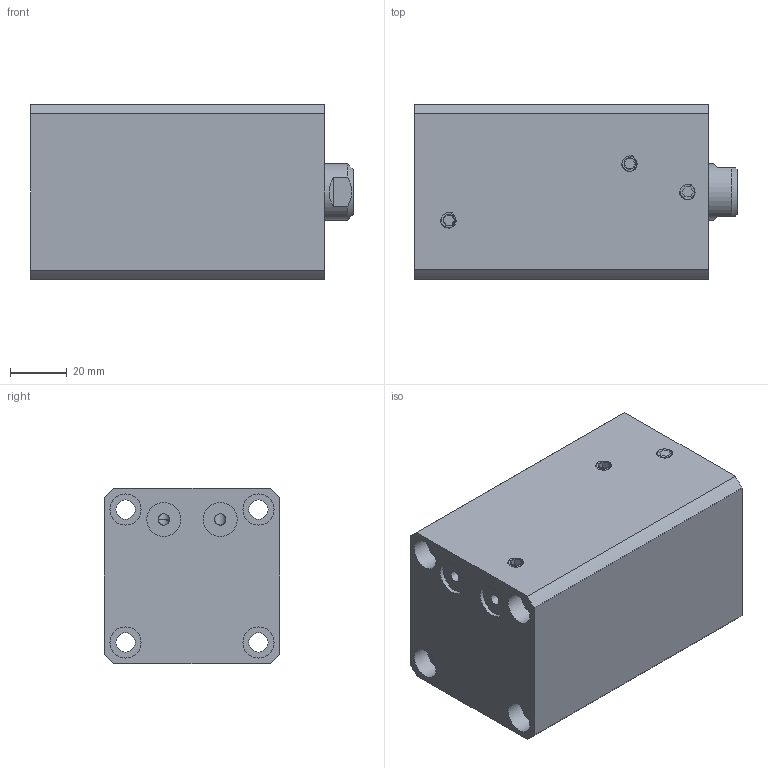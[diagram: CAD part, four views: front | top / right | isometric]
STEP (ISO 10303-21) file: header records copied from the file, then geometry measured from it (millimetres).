
FILE_DESCRIPTION(/* description */ (''),/* implementation_level */ '2;1');
FILE_NAME(/* name */ 'CHTB-sdmb32x50n.stp',/* time_stamp */ '2022-04-29T17:14:23+08:00',/* author */ (''),/* organization */ (''),/* preprocessor_version */ 'ST-DEVELOPER v16.7',/* originating_system */ 'SIEMENS PLM Software NX 12.0',/* authorisation */ '');
FILE_SCHEMA (('AUTOMOTIVE_DESIGN { 1 0 10303 214 3 1 1 1 }'));
Length unit declared in the file: millimetre
Products named in the file (1): CHTB-sdmb32x50n
Bounding box: 114 x 62 x 62 mm (x, y, z)
Volume: 314842.6 mm3; surface area: 73900.1 mm2
Topology: 5 solids, 6 shells, 582 faces, 1611 edges, 1086 vertices
Faces by surface type: plane 327, extrusion 113, cylinder 69, bspline 44, cone 17, torus 12
Full cylindrical faces by diameter (mm): 3 x2, 4 x4, 6.8 x4, 10 x7, 11 x8, 12 x2, 20 x2, 24.5 x1, 26 x2, 32 x4, 40 x1
Entity records: 36520 total; most frequent: CARTESIAN_POINT 20405, ORIENTED_EDGE 3026, DIRECTION 2097, EDGE_CURVE 1513, VERTEX_POINT 1048, VECTOR 1019, LINE 906, EDGE_LOOP 690
